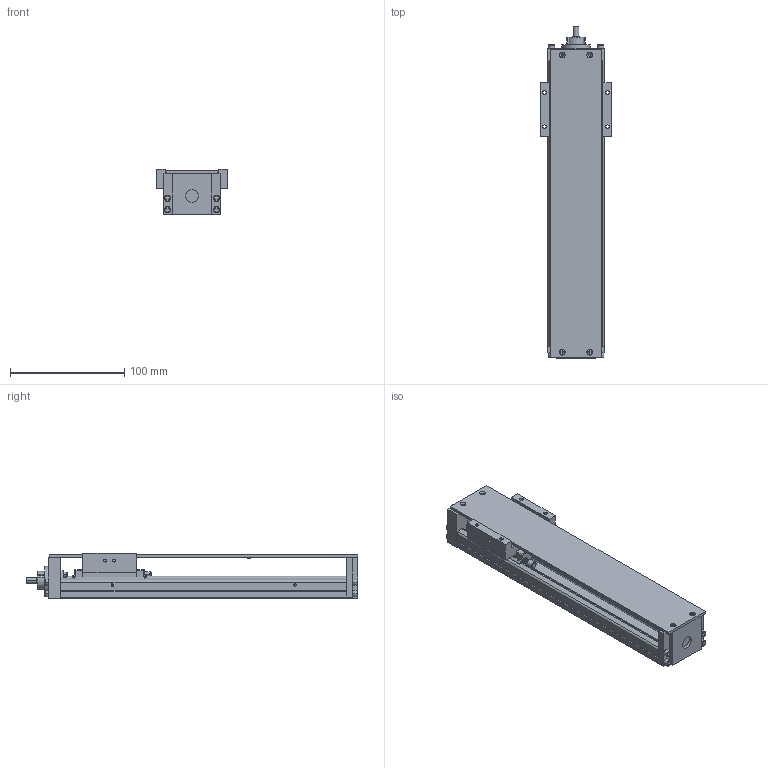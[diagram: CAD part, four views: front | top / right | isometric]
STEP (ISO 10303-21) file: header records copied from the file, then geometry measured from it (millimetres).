
FILE_DESCRIPTION(('no description'),'unknown implementation level');
FILE_NAME('KK5002P250A1H0C00_FILE_16.stp',' ',('HIWIN GmbH'),('CADClick - KiM GmbH - www.kimweb.de'),'unknown preprocess','ACIS','unknown authorization');
FILE_SCHEMA(('automotive_design'));
Length unit declared in the file: millimetre
Products named in the file (2): KK50_FILE; KK5002P250A1H0C00_FILE
Bounding box: 62 x 290.5 x 40 mm (x, y, z)
Volume: 265881.3 mm3; surface area: 103164.3 mm2
Topology: 2 solids, 14 shells, 798 faces, 1984 edges, 1257 vertices
Faces by surface type: plane 473, cylinder 225, cone 58, torus 42
Entity records: 46502 total; most frequent: CARTESIAN_POINT 4579, DIRECTION 4152, STYLED_ITEM 4015, PRESENTATION_STYLE_ASSIGNMENT 4015, COLOUR_RGB 4015, ORIENTED_EDGE 3916, EDGE_CURVE 1958, CURVE_STYLE 1958
